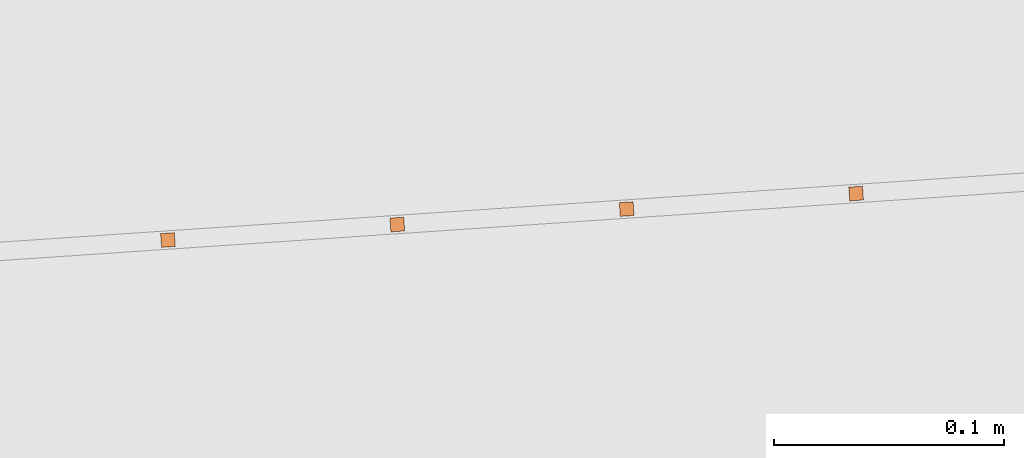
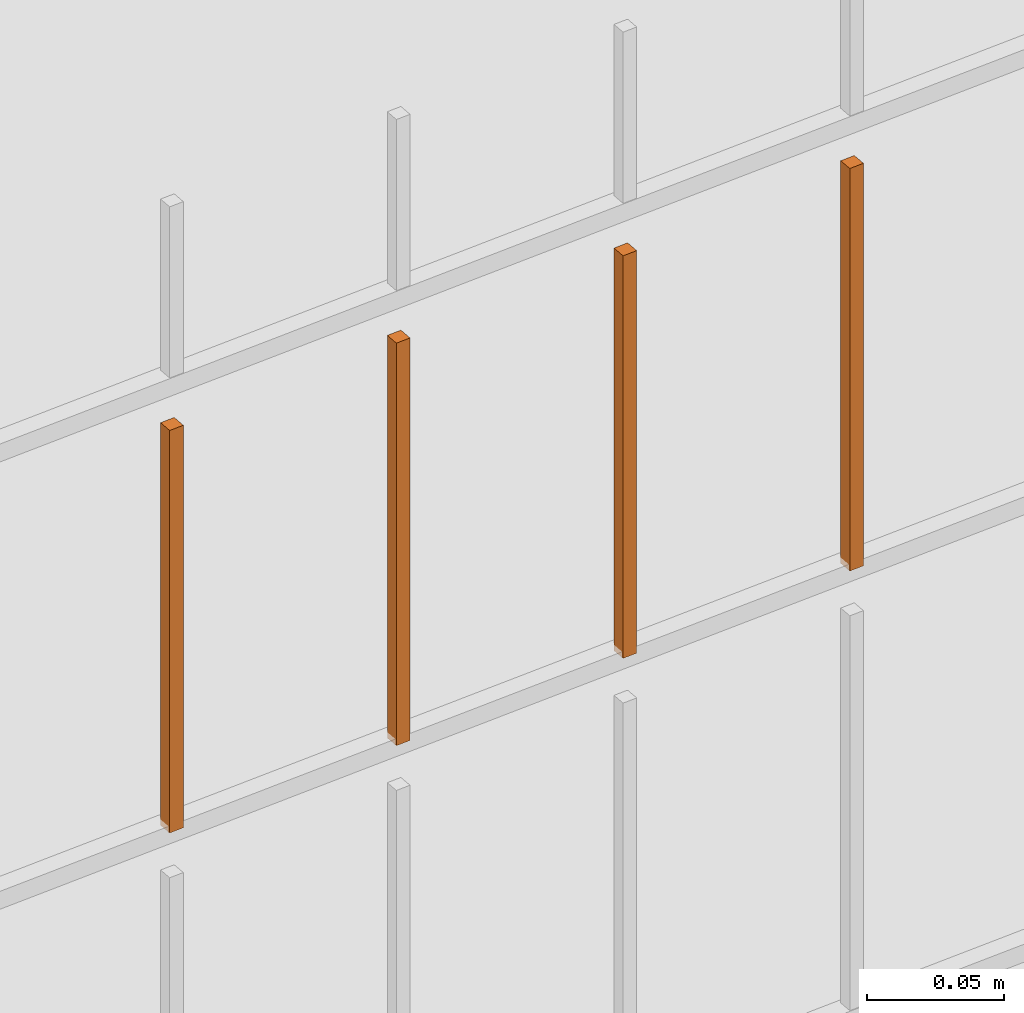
# One storey, part 147 of 1809: 4 proxies, 1 element without a shape of its own.
"""IFC2X3 building model written with IfcOpenShell, lengths in millimetres."""

from ifc_helpers import new_model, entity, si_unit, converted_unit, derived_unit, money_unit, direction, frame, origin_with_axes, place, context, subcontext, project, spatial, faceted_brep, source, transform, mapped, material, type_object, element, aggregate, save


model = new_model("IFC2X3")

# Units and contexts
model_context = context("Model", 3, precision=0.01, world=origin_with_axes(), true_north=direction((0.0, 1.0)))
body_context = subcontext(model_context, "Body", "Model", "MODEL_VIEW")
ifc_project = project(units=[si_unit("LENGTHUNIT", "METRE", prefix="MILLI"), si_unit("AREAUNIT", "SQUARE_METRE"), si_unit("VOLUMEUNIT", "CUBIC_METRE"), converted_unit("PLANEANGLEUNIT", "DEGREE", entity("IfcPlaneAngleMeasure", 0.0174532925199), si_unit("PLANEANGLEUNIT", "RADIAN"), dimensions=[0, 0, 0, 0, 0, 0, 0]), si_unit("SOLIDANGLEUNIT", "STERADIAN"), money_unit("EUR"), converted_unit("TIMEUNIT", "Year", entity("IfcTimeMeasure", 31556926.0), si_unit("TIMEUNIT", "SECOND"), dimensions=[0, 0, 1, 0, 0, 0, 0]), si_unit("MASSUNIT", "GRAM", prefix="KILO"), si_unit("THERMODYNAMICTEMPERATUREUNIT", "DEGREE_CELSIUS"), si_unit("LUMINOUSINTENSITYUNIT", "LUMEN"), si_unit("ENERGYUNIT", "JOULE", prefix="MEGA"), derived_unit("THERMALCONDUCTANCEUNIT", [(si_unit("POWERUNIT", "WATT"), 1), (si_unit("LENGTHUNIT", "METRE"), -1), (si_unit("THERMODYNAMICTEMPERATUREUNIT", "KELVIN"), -1)]), derived_unit("SPECIFICHEATCAPACITYUNIT", [(si_unit("ENERGYUNIT", "JOULE"), 1), (si_unit("MASSUNIT", "GRAM", prefix="KILO"), -1), (si_unit("THERMODYNAMICTEMPERATUREUNIT", "KELVIN"), -1)]), derived_unit("MASSDENSITYUNIT", [(si_unit("MASSUNIT", "GRAM", prefix="KILO"), 1), (si_unit("VOLUMEUNIT", "CUBIC_METRE"), -1)])], contexts=[model_context])

# Site, building, storey
site_placement = place(None, origin_with_axes())
site = spatial("IfcSite", under=ifc_project, at=site_placement, Name="Politse- ja Piirivalveameti ning Päästeameti ühishoone", CompositionType="ELEMENT")
building_placement = place(site_placement, origin_with_axes())
building = spatial("IfcBuilding", under=site, at=building_placement, Name="Politse- ja Piirivalveameti ning Päästeameti ühishoone", CompositionType="ELEMENT")
storey_placement = place(building_placement, origin_with_axes())
storey = spatial("IfcBuildingStorey", under=building, at=storey_placement, Name="Esimene korrus", CompositionType="ELEMENT", Elevation=0.0)

# Proxies
building_element_proxy_type_1 = type_object("IfcBuildingElementProxyType", Name="Railing Type", PredefinedType="NOTDEFINED")
proxy_1_placement = place(storey_placement, frame((89252.001212, -29183.4766571, 203.661247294), z_axis=(0.0, 0.0, 1.0), x_axis=(1.0, 0.0, 0.0)))
proxy_1 = element("IfcBuildingElementProxy", 1, at=proxy_1_placement, inside=storey, type_object=building_element_proxy_type_1, Name="PIIRDEAED")
ifc_material = material(Name="ET-03_Raud")
building_element_proxy_type_2 = type_object("IfcBuildingElementProxyType", Name="IfcBuildingElementProxy", PredefinedType="NOTDEFINED")
shared_shape_1 = source(origin_with_axes(), body_context, "Body", "Brep", [
    faceted_brep([(3.0, 3.0, -0.000752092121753), (-3.0, 3.0, -0.000752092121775), (-3.0, 3.0, 179.99926046), (3.0, 3.0, 179.99926046), (3.0, -3.0, 0.000752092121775), (-3.0, -3.0, 0.000752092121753), (-3.0, -3.0, 180.000764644), (3.0, -3.0, 180.000764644)], [[[0, 1, 2, 3]], [[0, 4, 5, 1]], [[1, 5, 6, 2]], [[3, 2, 6, 7]], [[4, 0, 3, 7]], [[5, 4, 7, 6]]]),
])
proxy_2_placement = place(proxy_1_placement, frame((-84833.382365, -23027.9495907, 1805.91841812), z_axis=(0.0, 0.0, 1.0), x_axis=(1.0, 0.0, 0.0)))
proxy_2 = element("IfcBuildingElementProxy", 2, at=proxy_2_placement, type_object=building_element_proxy_type_2, material=ifc_material, Name="BALUSTER - 001", context=body_context, shape_type="MappedRepresentation", body=[
    mapped(shared_shape_1, transform((0.0, 0.0, 0.0), x_axis=(-0.0673926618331, 0.997726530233, 0.0), y_axis=(-0.997726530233, -0.0673926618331, 0.0), z_axis=(0.0, 0.0, 1.0))),
])
shared_shape_2 = source(origin_with_axes(), body_context, "Body", "Brep", [
    faceted_brep([(3.0, 3.0, -0.000752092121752), (-3.0, 3.0, -0.000752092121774), (-3.0, 3.0, 179.99926046), (3.0, 3.0, 179.99926046), (3.0, -3.0, 0.000752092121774), (-3.0, -3.0, 0.000752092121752), (-3.0, -3.0, 180.000764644), (3.0, -3.0, 180.000764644)], [[[0, 1, 2, 3]], [[0, 4, 5, 1]], [[1, 5, 6, 2]], [[3, 2, 6, 7]], [[4, 0, 3, 7]], [[5, 4, 7, 6]]]),
])
proxy_3_placement = place(proxy_1_placement, frame((-85032.927671, -23041.4281231, 1805.86827865), z_axis=(0.0, 0.0, 1.0), x_axis=(1.0, 0.0, 0.0)))
proxy_3 = element("IfcBuildingElementProxy", 3, at=proxy_3_placement, type_object=building_element_proxy_type_2, material=ifc_material, Name="BALUSTER - 001", context=body_context, shape_type="MappedRepresentation", body=[
    mapped(shared_shape_2, transform((0.0, 0.0, 0.0), x_axis=(-0.0673926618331, 0.997726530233, 0.0), y_axis=(-0.997726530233, -0.0673926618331, 0.0), z_axis=(0.0, 0.0, 1.0))),
])
shared_shape_3 = source(origin_with_axes(), body_context, "Body", "Brep", [
    faceted_brep([(3.0, 3.0, -0.000752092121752), (-3.0, 3.0, -0.000752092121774), (-3.0, 3.0, 179.99926046), (3.0, 3.0, 179.99926046), (3.0, -3.0, 0.000752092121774), (-3.0, -3.0, 0.000752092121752), (-3.0, -3.0, 180.000764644), (3.0, -3.0, 180.000764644)], [[[0, 1, 2, 3]], [[0, 4, 5, 1]], [[1, 5, 6, 2]], [[3, 2, 6, 7]], [[4, 0, 3, 7]], [[5, 4, 7, 6]]]),
])
proxy_4_placement = place(proxy_1_placement, frame((-84933.155018, -23034.6888569, 1805.89334839), z_axis=(0.0, 0.0, 1.0), x_axis=(1.0, 0.0, 0.0)))
proxy_4 = element("IfcBuildingElementProxy", 4, at=proxy_4_placement, type_object=building_element_proxy_type_2, material=ifc_material, Name="BALUSTER - 001", context=body_context, shape_type="MappedRepresentation", body=[
    mapped(shared_shape_3, transform((0.0, 0.0, 0.0), x_axis=(-0.0673926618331, 0.997726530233, 0.0), y_axis=(-0.997726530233, -0.0673926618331, 0.0), z_axis=(0.0, 0.0, 1.0))),
])
proxy_5_placement = place(proxy_1_placement, frame((-85132.7003241, -23048.1673893, 1805.84320891), z_axis=(0.0, 0.0, 1.0), x_axis=(1.0, 0.0, 0.0)))
proxy_5 = element("IfcBuildingElementProxy", 5, at=proxy_5_placement, type_object=building_element_proxy_type_2, material=ifc_material, Name="BALUSTER - 001", context=body_context, shape_type="MappedRepresentation", body=[
    mapped(shared_shape_3, transform((0.0, 0.0, 0.0), x_axis=(-0.0673926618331, 0.997726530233, 0.0), y_axis=(-0.997726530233, -0.0673926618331, 0.0), z_axis=(0.0, 0.0, 1.0))),
])
aggregate(proxy_1, [proxy_2, proxy_4, proxy_3, proxy_5])

save(model, "model.ifc")
